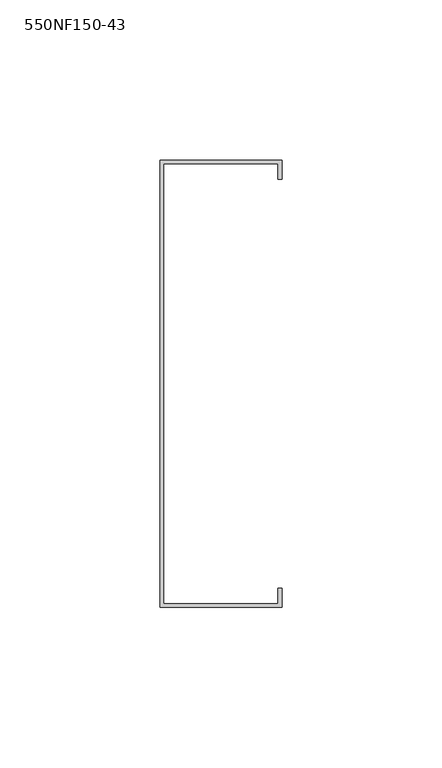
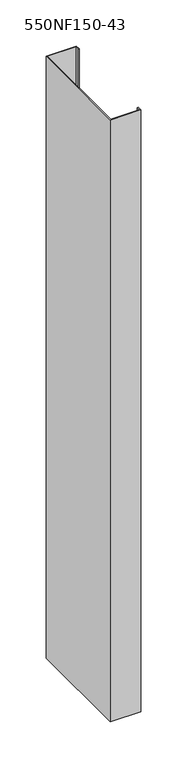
"""IFC4 building model written with IfcOpenShell, lengths in millimetres: column geometry, BIMSF-SSMA-S-Column : 550NF150-43."""

from ifc_helpers import new_model, si_unit, frame, origin, place, context, project, spatial, polyline, outline, extrude, source, transform, mapped, element, save


def column_550nf150_43_7a31c3e5(model_context):
    return source(origin(), model_context, "Body", "SweptSolid", [
        extrude(outline(polyline([(-11.9977877, -80.5871249), (-11.9977877, 59.1128751), (26.1022123, 59.1128751), (26.1022123, 53.1879908), (24.952528, 53.1879908), (24.952528, 57.9631908), (-10.8481035, 57.9631908), (-10.8481035, -79.4374407), (24.952528, -79.4374407), (24.952528, -74.6622407), (26.1022123, -74.6622407), (26.1022123, -80.5871249), (-11.9977877, -80.5871249)])), frame((0.0, 0.0, 5525.3929688), z_axis=(0.0, 0.0, 1.0), x_axis=(1.0, 0.0, 0.0)), (0.0, 0.0, 1.0), 797.7812991),
    ])


if __name__ == "__main__":
    model = new_model("IFC4")
    model_context = context("Model", 3, world=origin())
    ifc_project = project(units=[si_unit("LENGTHUNIT", "METRE", prefix="MILLI")], contexts=[model_context])
    site = spatial("IfcSite", under=ifc_project)
    building = spatial("IfcBuilding", under=site)
    placement = place(None, origin())
    column_550nf150_43_shape = column_550nf150_43_7a31c3e5(model_context)
    element("IfcColumn", 1, ObjectType="BIMSF-SSMA-S-Column : 550NF150-43", at=placement, inside=building, context=model_context, shape_type="MappedRepresentation", body=[
        mapped(column_550nf150_43_shape, transform((0.0, 0.0, 0.0), x_axis=(1.0, 0.0, 0.0), y_axis=(0.0, 1.0, 0.0), z_axis=(0.0, 0.0, 1.0))),
    ])
    save(model, "model.ifc")
